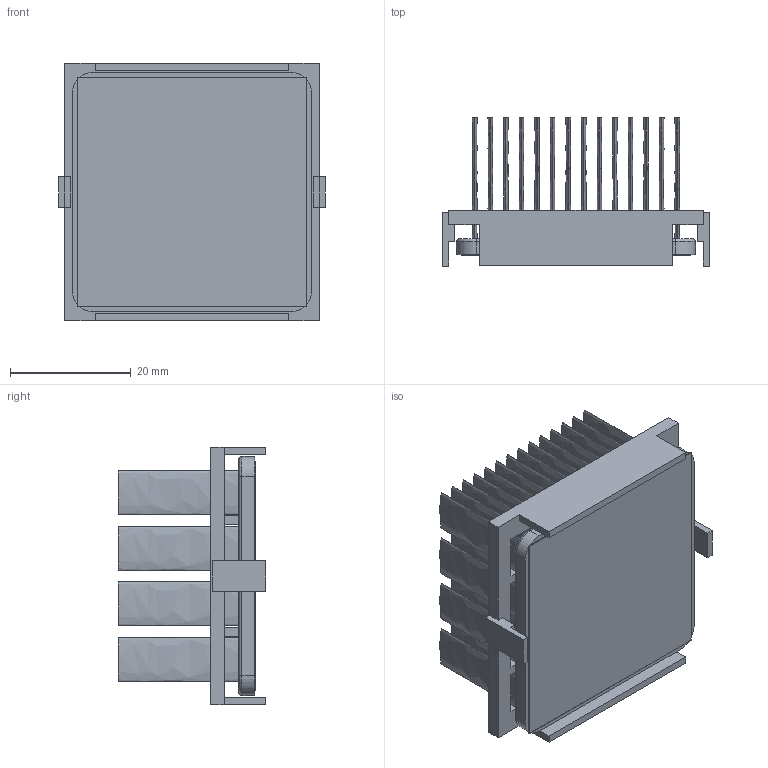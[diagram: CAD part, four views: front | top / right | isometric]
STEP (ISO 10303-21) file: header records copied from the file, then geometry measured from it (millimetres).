
FILE_DESCRIPTION (( 'STEP AP214' ), '1' );
FILE_NAME ('INM40001-23W-2.6BU.STEP', '2023-02-21T17:42:39', ( '' ), ( '' ), 'SwSTEP 2.0', 'SolidWorks 2020', '' );
FILE_SCHEMA (( 'AUTOMOTIVE_DESIGN' ));
Length unit declared in the file: inch
Products named in the file (1): INM40001-23W-2.6BU
Bounding box: 44.2 x 24.5 x 42.7 mm (x, y, z)
Volume: 11385.9 mm3; surface area: 26008.3 mm2
Topology: 3 solids, 3 shells, 250 faces, 556 edges, 368 vertices
Faces by surface type: plane 126, bspline 112, cylinder 8, torus 4
Entity records: 10428 total; most frequent: CARTESIAN_POINT 2631, ORIENTED_EDGE 1112, DIRECTION 630, EDGE_CURVE 556, VERTEX_POINT 368, LINE 312, VECTOR 312, EDGE_LOOP 308
